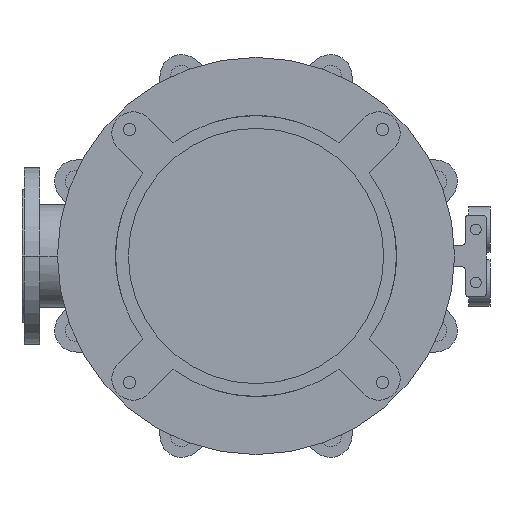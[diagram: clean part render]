
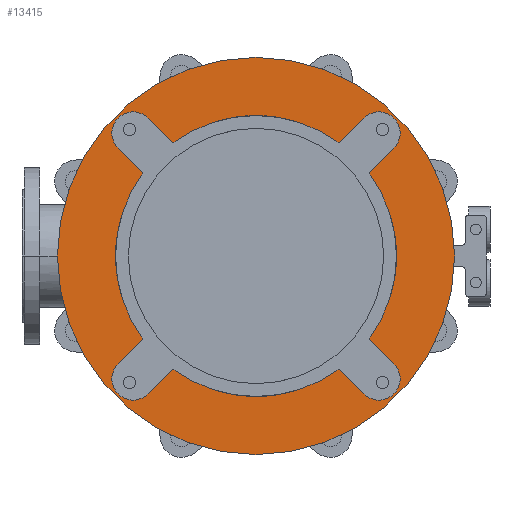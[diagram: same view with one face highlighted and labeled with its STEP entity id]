
A CAD part, front view. The second image highlights one B-rep face of the part: STEP entity #13415.
In plain terms, the highlighted planar face has unit normal (0, -1, 0).
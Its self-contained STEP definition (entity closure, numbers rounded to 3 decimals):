
#3041=CARTESIAN_POINT('',(0.,-25.,0.));
#3042=DIRECTION('',(0.,1.,0.));
#3043=DIRECTION('',(0.592,0.,-0.806));
#3044=AXIS2_PLACEMENT_3D('',#3041,#3042,#3043);
#3059=CARTESIAN_POINT('',(0.,-25.,0.));
#3060=DIRECTION('',(0.,1.,0.));
#3061=DIRECTION('',(0.806,0.,0.592));
#3062=AXIS2_PLACEMENT_3D('',#3059,#3060,#3061);
#3086=CARTESIAN_POINT('',(0.,-25.,0.));
#3087=DIRECTION('',(0.,1.,0.));
#3088=DIRECTION('',(-0.806,0.,-0.592));
#3089=AXIS2_PLACEMENT_3D('',#3086,#3087,#3088);
#3095=CARTESIAN_POINT('',(0.,-25.,0.));
#3096=DIRECTION('',(0.,1.,0.));
#3097=DIRECTION('',(-0.592,0.,0.806));
#3098=AXIS2_PLACEMENT_3D('',#3095,#3096,#3097);
#3273=CARTESIAN_POINT('',(0.,-25.,0.));
#3274=DIRECTION('',(0.,-1.,0.));
#3275=DIRECTION('',(-1.,0.,0.));
#3276=AXIS2_PLACEMENT_3D('',#3273,#3274,#3275);
#3278=CARTESIAN_POINT('',(0.,-25.,0.));
#3279=DIRECTION('',(0.,1.,0.));
#3280=DIRECTION('',(-1.,0.,0.));
#3281=AXIS2_PLACEMENT_3D('',#3278,#3279,#3280);
#3283=CARTESIAN_POINT('',(-173.241,-25.,173.241));
#3284=DIRECTION('',(0.,-1.,0.));
#3285=DIRECTION('',(0.707,0.,0.707));
#3286=AXIS2_PLACEMENT_3D('',#3283,#3284,#3285);
#3288=DIRECTION('',(0.707,0.,-0.707));
#3289=VECTOR('',#3288,49.286);
#3290=CARTESIAN_POINT('',(-194.454,-25.,152.028));
#3291=LINE('',#3290,#3289);
#3292=DIRECTION('',(-0.707,0.,-0.707));
#3293=VECTOR('',#3292,49.286);
#3294=CARTESIAN_POINT('',(-159.604,-25.,-117.178));
#3295=LINE('',#3294,#3293);
#3296=CARTESIAN_POINT('',(-173.241,-25.,-173.241));
#3297=DIRECTION('',(0.,-1.,0.));
#3298=DIRECTION('',(-0.707,0.,0.707));
#3299=AXIS2_PLACEMENT_3D('',#3296,#3297,#3298);
#3301=DIRECTION('',(0.707,0.,0.707));
#3302=VECTOR('',#3301,49.286);
#3303=CARTESIAN_POINT('',(-152.028,-25.,-194.454));
#3304=LINE('',#3303,#3302);
#3305=DIRECTION('',(0.707,0.,-0.707));
#3306=VECTOR('',#3305,49.286);
#3307=CARTESIAN_POINT('',(117.178,-25.,-159.604));
#3308=LINE('',#3307,#3306);
#3309=CARTESIAN_POINT('',(173.241,-25.,-173.241));
#3310=DIRECTION('',(0.,-1.,0.));
#3311=DIRECTION('',(-0.707,0.,-0.707));
#3312=AXIS2_PLACEMENT_3D('',#3309,#3310,#3311);
#3314=DIRECTION('',(-0.707,0.,0.707));
#3315=VECTOR('',#3314,49.286);
#3316=CARTESIAN_POINT('',(194.454,-25.,-152.028));
#3317=LINE('',#3316,#3315);
#3318=DIRECTION('',(0.707,0.,0.707));
#3319=VECTOR('',#3318,49.286);
#3320=CARTESIAN_POINT('',(159.604,-25.,117.178));
#3321=LINE('',#3320,#3319);
#3322=CARTESIAN_POINT('',(173.241,-25.,173.241));
#3323=DIRECTION('',(0.,-1.,0.));
#3324=DIRECTION('',(0.707,0.,-0.707));
#3325=AXIS2_PLACEMENT_3D('',#3322,#3323,#3324);
#3327=DIRECTION('',(-0.707,0.,-0.707));
#3328=VECTOR('',#3327,49.286);
#3329=CARTESIAN_POINT('',(152.028,-25.,194.454));
#3330=LINE('',#3329,#3328);
#3331=DIRECTION('',(-0.707,0.,0.707));
#3332=VECTOR('',#3331,49.286);
#3333=CARTESIAN_POINT('',(-117.178,-25.,159.604));
#3334=LINE('',#3333,#3332);
#8391=CARTESIAN_POINT('',(-280.,-25.,0.));
#8392=CARTESIAN_POINT('',(280.,-25.,0.));
#8393=VERTEX_POINT('',#8391);
#8394=VERTEX_POINT('',#8392);
#8415=CARTESIAN_POINT('',(-194.454,-25.,-152.028));
#8416=CARTESIAN_POINT('',(-152.028,-25.,-194.454));
#8417=VERTEX_POINT('',#8415);
#8418=VERTEX_POINT('',#8416);
#8419=CARTESIAN_POINT('',(-117.178,-25.,-159.604));
#8420=VERTEX_POINT('',#8419);
#8421=CARTESIAN_POINT('',(-159.604,-25.,-117.178));
#8422=VERTEX_POINT('',#8421);
#8431=CARTESIAN_POINT('',(152.028,-25.,-194.454));
#8432=CARTESIAN_POINT('',(194.454,-25.,-152.028));
#8433=VERTEX_POINT('',#8431);
#8434=VERTEX_POINT('',#8432);
#8435=CARTESIAN_POINT('',(159.604,-25.,-117.178));
#8436=VERTEX_POINT('',#8435);
#8437=CARTESIAN_POINT('',(117.178,-25.,-159.604));
#8438=VERTEX_POINT('',#8437);
#8447=CARTESIAN_POINT('',(194.454,-25.,152.028));
#8448=CARTESIAN_POINT('',(152.028,-25.,194.454));
#8449=VERTEX_POINT('',#8447);
#8450=VERTEX_POINT('',#8448);
#8451=CARTESIAN_POINT('',(117.178,-25.,159.604));
#8452=VERTEX_POINT('',#8451);
#8453=CARTESIAN_POINT('',(159.604,-25.,117.178));
#8454=VERTEX_POINT('',#8453);
#8463=CARTESIAN_POINT('',(-152.028,-25.,194.454));
#8464=CARTESIAN_POINT('',(-194.454,-25.,152.028));
#8465=VERTEX_POINT('',#8463);
#8466=VERTEX_POINT('',#8464);
#8467=CARTESIAN_POINT('',(-159.604,-25.,117.178));
#8468=VERTEX_POINT('',#8467);
#8469=CARTESIAN_POINT('',(-117.178,-25.,159.604));
#8470=VERTEX_POINT('',#8469);
#13375=CARTESIAN_POINT('',(0.,-25.,0.));
#13376=DIRECTION('',(0.,-1.,0.));
#13377=DIRECTION('',(-1.,0.,0.));
#13378=AXIS2_PLACEMENT_3D('',#13375,#13376,#13377);
#13379=PLANE('',#13378);
#13381=ORIENTED_EDGE('',*,*,#13380,.F.);
#13383=ORIENTED_EDGE('',*,*,#13382,.T.);
#13384=EDGE_LOOP('',(#13381,#13383));
#13385=FACE_OUTER_BOUND('',#13384,.F.);
#13387=ORIENTED_EDGE('',*,*,#13386,.T.);
#13389=ORIENTED_EDGE('',*,*,#13388,.T.);
#13390=ORIENTED_EDGE('',*,*,#13328,.F.);
#13392=ORIENTED_EDGE('',*,*,#13391,.T.);
#13394=ORIENTED_EDGE('',*,*,#13393,.T.);
#13396=ORIENTED_EDGE('',*,*,#13395,.T.);
#13397=ORIENTED_EDGE('',*,*,#13281,.F.);
#13398=ORIENTED_EDGE('',*,*,#13365,.T.);
#13400=ORIENTED_EDGE('',*,*,#13399,.T.);
#13402=ORIENTED_EDGE('',*,*,#13401,.T.);
#13403=ORIENTED_EDGE('',*,*,#13302,.F.);
#13405=ORIENTED_EDGE('',*,*,#13404,.T.);
#13407=ORIENTED_EDGE('',*,*,#13406,.T.);
#13409=ORIENTED_EDGE('',*,*,#13408,.T.);
#13410=ORIENTED_EDGE('',*,*,#13346,.F.);
#13412=ORIENTED_EDGE('',*,*,#13411,.T.);
#13413=EDGE_LOOP('',(#13387,#13389,#13390,#13392,#13394,#13396,#13397,#13398,
#13400,#13402,#13403,#13405,#13407,#13409,#13410,#13412));
#13414=FACE_BOUND('',#13413,.F.);
#13415=ADVANCED_FACE('',(#13385,#13414),#13379,.T.);
#3045=CIRCLE('',#3044,198.);
#3063=CIRCLE('',#3062,198.);
#3090=CIRCLE('',#3089,198.);
#3099=CIRCLE('',#3098,198.);
#3277=CIRCLE('',#3276,280.);
#3282=CIRCLE('',#3281,280.);
#3287=CIRCLE('',#3286,30.);
#3300=CIRCLE('',#3299,30.);
#3313=CIRCLE('',#3312,30.);
#3326=CIRCLE('',#3325,30.);
#13281=EDGE_CURVE('',#8438,#8420,#3045,.T.);
#13302=EDGE_CURVE('',#8454,#8436,#3063,.T.);
#13328=EDGE_CURVE('',#8422,#8468,#3090,.T.);
#13346=EDGE_CURVE('',#8470,#8452,#3099,.T.);
#13365=EDGE_CURVE('',#8438,#8433,#3308,.T.);
#13380=EDGE_CURVE('',#8393,#8394,#3277,.T.);
#13382=EDGE_CURVE('',#8393,#8394,#3282,.T.);
#13386=EDGE_CURVE('',#8465,#8466,#3287,.T.);
#13388=EDGE_CURVE('',#8466,#8468,#3291,.T.);
#13391=EDGE_CURVE('',#8422,#8417,#3295,.T.);
#13393=EDGE_CURVE('',#8417,#8418,#3300,.T.);
#13395=EDGE_CURVE('',#8418,#8420,#3304,.T.);
#13399=EDGE_CURVE('',#8433,#8434,#3313,.T.);
#13401=EDGE_CURVE('',#8434,#8436,#3317,.T.);
#13404=EDGE_CURVE('',#8454,#8449,#3321,.T.);
#13406=EDGE_CURVE('',#8449,#8450,#3326,.T.);
#13408=EDGE_CURVE('',#8450,#8452,#3330,.T.);
#13411=EDGE_CURVE('',#8470,#8465,#3334,.T.);
